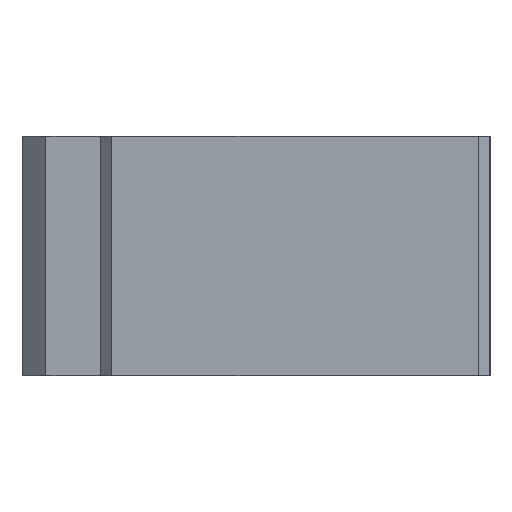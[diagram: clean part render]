
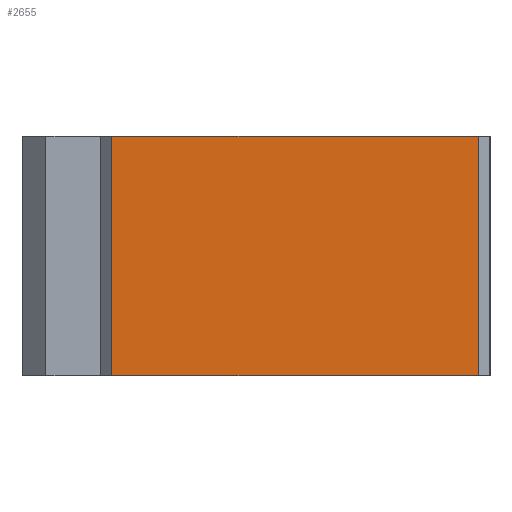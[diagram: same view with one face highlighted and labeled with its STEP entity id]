
A CAD part, left-side view. The second image highlights one B-rep face of the part: STEP entity #2655.
In plain terms, the highlighted planar face has unit normal (-1, 0, 0).
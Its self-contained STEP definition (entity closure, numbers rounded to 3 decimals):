
#85=PLANE($,#2978);
#137=FACE_OUTER_BOUND($,#242,.T.);
#242=EDGE_LOOP($,(#2212,#2213,#2214,#2215));
#684=LINE($,#7008,#920);
#685=LINE($,#7010,#921);
#686=LINE($,#7012,#922);
#687=LINE($,#7013,#923);
#920=VECTOR($,#3449,20.);
#921=VECTOR($,#3450,30.5);
#922=VECTOR($,#3451,20.);
#923=VECTOR($,#3452,30.5);
#1252=VERTEX_POINT($,#7006);
#1253=VERTEX_POINT($,#7007);
#1254=VERTEX_POINT($,#7009);
#1255=VERTEX_POINT($,#7011);
#1732=EDGE_CURVE($,#1252,#1253,#684,.T.);
#1733=EDGE_CURVE($,#1253,#1254,#685,.T.);
#1734=EDGE_CURVE($,#1254,#1255,#686,.T.);
#1735=EDGE_CURVE($,#1255,#1252,#687,.T.);
#2212=ORIENTED_EDGE($,*,*,#1732,.T.);
#2213=ORIENTED_EDGE($,*,*,#1733,.T.);
#2214=ORIENTED_EDGE($,*,*,#1734,.T.);
#2215=ORIENTED_EDGE($,*,*,#1735,.T.);
#2655=ADVANCED_FACE($,(#137),#85,.T.);
#2978=AXIS2_PLACEMENT_3D($,#7005,#3447,#3448);
#3447=DIRECTION('center_axis',(-1.,0.,0.));
#3448=DIRECTION('ref_axis',(0.,0.,1.));
#3449=DIRECTION($,(0.,0.,-1.));
#3450=DIRECTION($,(0.,-1.,0.));
#3451=DIRECTION($,(0.,0.,1.));
#3452=DIRECTION($,(0.,1.,0.));
#7005=CARTESIAN_POINT('Origin',(-30.,-21.,-10.));
#7006=CARTESIAN_POINT('',(-30.,9.5,0.));
#7007=CARTESIAN_POINT('',(-30.,9.5,-20.));
#7008=CARTESIAN_POINT($,(-30.,9.5,0.));
#7009=CARTESIAN_POINT('',(-30.,-21.,-20.));
#7010=CARTESIAN_POINT($,(-30.,9.5,-20.));
#7011=CARTESIAN_POINT('',(-30.,-21.,0.));
#7012=CARTESIAN_POINT($,(-30.,-21.,-20.));
#7013=CARTESIAN_POINT($,(-30.,-21.,0.));
